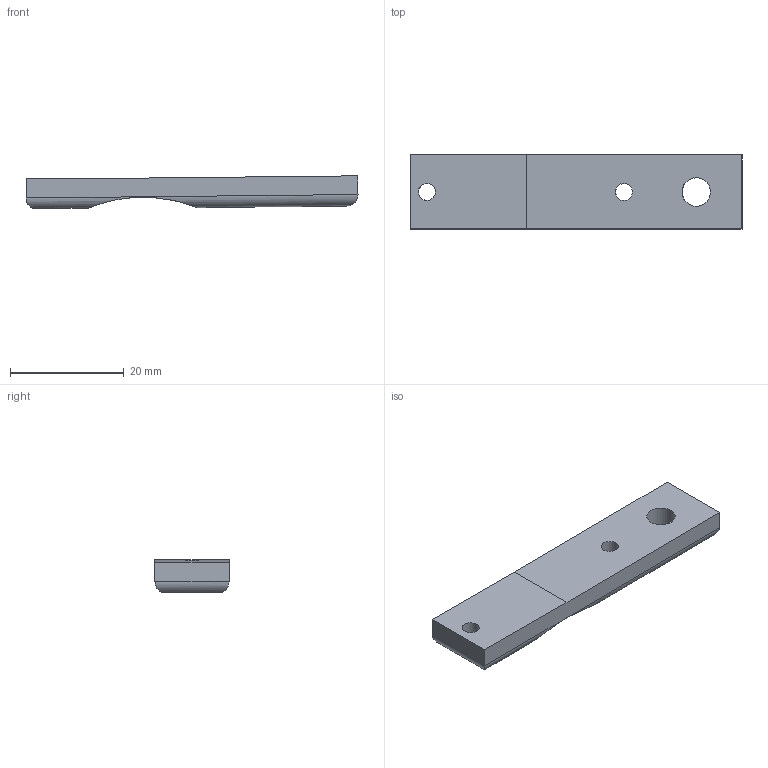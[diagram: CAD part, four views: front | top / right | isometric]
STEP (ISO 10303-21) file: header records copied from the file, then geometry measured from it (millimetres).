
FILE_DESCRIPTION(/* description */ ('STEP AP242 Edition 2','CAx-IF Rec.Pracs.---Representation and Presentation of Product Manufacturing Information (PMI)---4.0---2014-10-13','CAx-IF Rec.Pracs.---3D Tessellated Geometry---0.4---2014-09-14','2;1','CAx-IF Rec.Pracs.---User Defined Attributes---1.5---2016-08-15'),/* implementation_level */ '2;1');
FILE_NAME(/* name */ 'Assem2h - tank mount (1)',/* time_stamp */ '2025-12-01T14:50:28Z',/* author */ (''),/* organization */ (''),/* preprocessor_version */ 'ST-DEVELOPER v20',/* originating_system */ 'ONSHAPE BY PTC INC, 1.207',/* authorisation */ ' ');
FILE_SCHEMA (('AP242_MANAGED_MODEL_BASED_3D_ENGINEERING_MIM_LF { 1 0 10303 442 3 1 4 }'));
Length unit declared in the file: metre
Products named in the file (1): tank mount
Bounding box: 58.3 x 13 x 5.68 mm (x, y, z)
Volume: 3426.7 mm3; surface area: 2248.1 mm2
Topology: 1 solids, 1 shells, 16 faces, 40 edges, 26 vertices
Faces by surface type: cylinder 8, plane 8
Full cylindrical faces by diameter (mm): 3 x2, 5 x1
Entity records: 527 total; most frequent: CARTESIAN_POINT 110, DIRECTION 83, ORIENTED_EDGE 74, EDGE_CURVE 37, AXIS2_PLACEMENT_3D 31, VERTEX_POINT 26, EDGE_LOOP 25, FACE_BOUND 25
